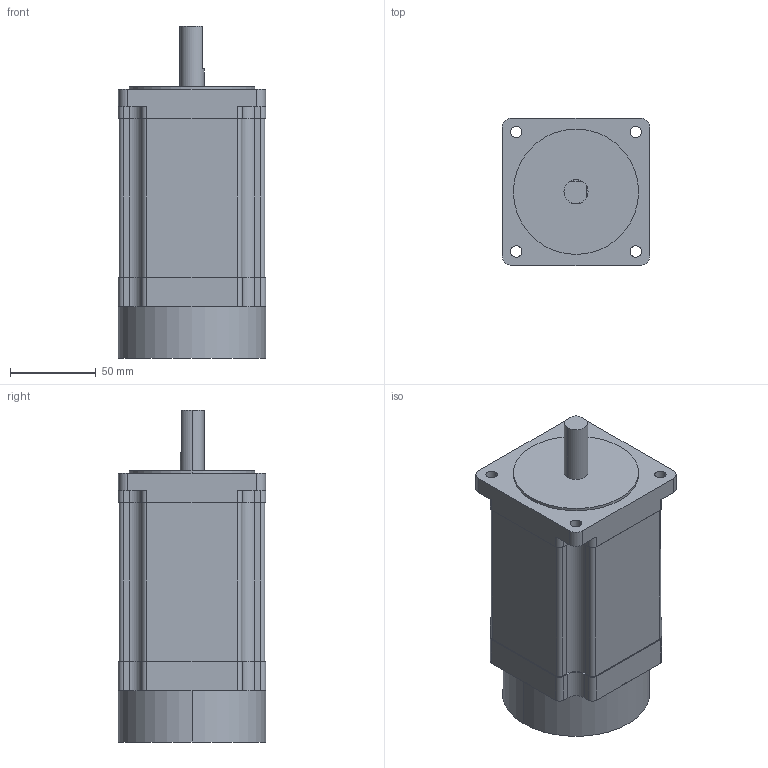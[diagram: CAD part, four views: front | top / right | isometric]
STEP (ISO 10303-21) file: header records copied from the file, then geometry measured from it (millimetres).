
FILE_DESCRIPTION (( 'STEP AP214' ), '1' );
FILE_NAME ('K5913-M.STEP', '2016-09-09T07:23:22', ( 'hoho' ), ( '' ), 'SwSTEP 2.0', 'SolidWorks 2013', '' );
FILE_SCHEMA (( 'AUTOMOTIVE_DESIGN' ));
Length unit declared in the file: millimetre
Products named in the file (1): K5913-M
Bounding box: 85.8 x 85.8 x 193.5 mm (x, y, z)
Volume: 1018384 mm3; surface area: 65968.3 mm2
Topology: 1 solids, 1 shells, 108 faces, 300 edges, 198 vertices
Faces by surface type: cylinder 54, plane 54
Entity records: 3826 total; most frequent: DIRECTION 632, CARTESIAN_POINT 607, ORIENTED_EDGE 600, EDGE_CURVE 300, AXIS2_PLACEMENT_3D 223, VERTEX_POINT 198, VECTOR 186, LINE 186
